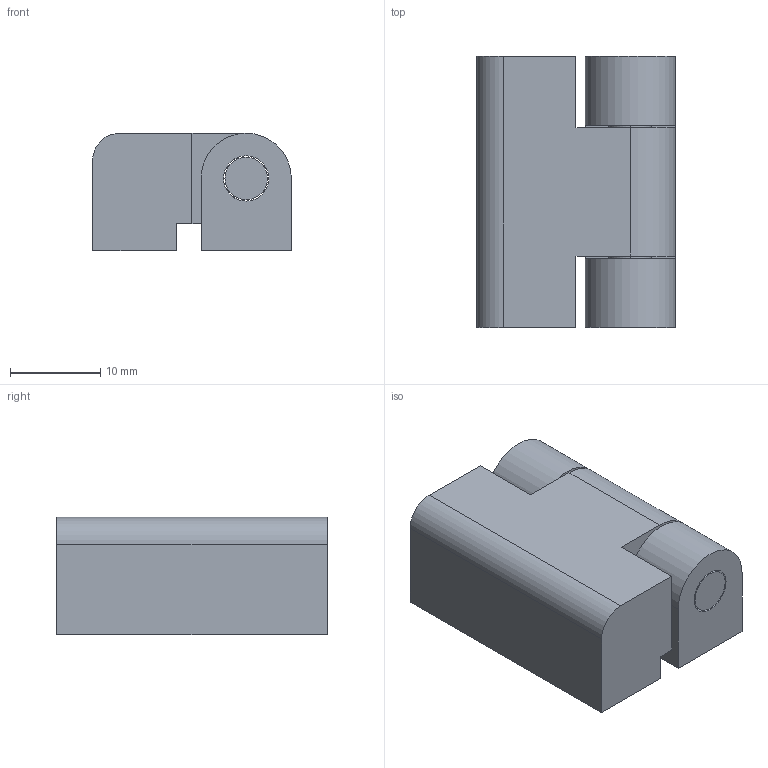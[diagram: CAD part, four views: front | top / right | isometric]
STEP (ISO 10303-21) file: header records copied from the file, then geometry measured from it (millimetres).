
FILE_DESCRIPTION (( 'STEP AP203' ), '1' );
FILE_NAME ('XG11-035-2.STEP', '2025-04-22T01:10:57', ( '微软用户' ), ( '微软中国' ), 'SwSTEP 2.0', 'SolidWorks 2024', '' );
FILE_SCHEMA (( 'CONFIG_CONTROL_DESIGN' ));
Length unit declared in the file: millimetre
Products named in the file (1): XG11-035-2
Bounding box: 22 x 30 x 13 mm (x, y, z)
Volume: 6177.3 mm3; surface area: 5266.3 mm2
Topology: 3 solids, 3 shells, 87 faces, 229 edges, 146 vertices
Faces by surface type: cylinder 44, plane 35, cone 8
Entity records: 3096 total; most frequent: CARTESIAN_POINT 847, DIRECTION 461, ORIENTED_EDGE 442, EDGE_CURVE 221, AXIS2_PLACEMENT_3D 168, VERTEX_POINT 146, VECTOR 125, LINE 125
